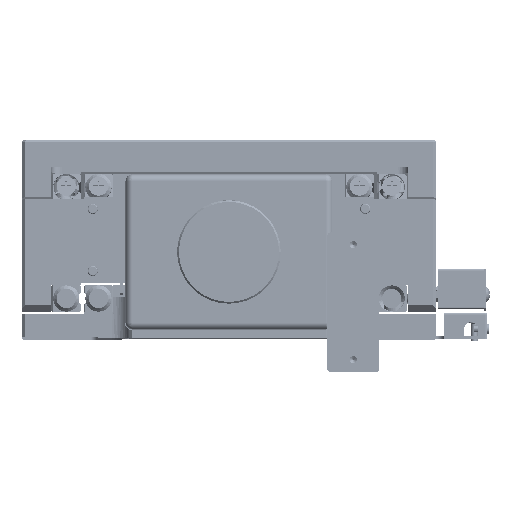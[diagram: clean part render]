
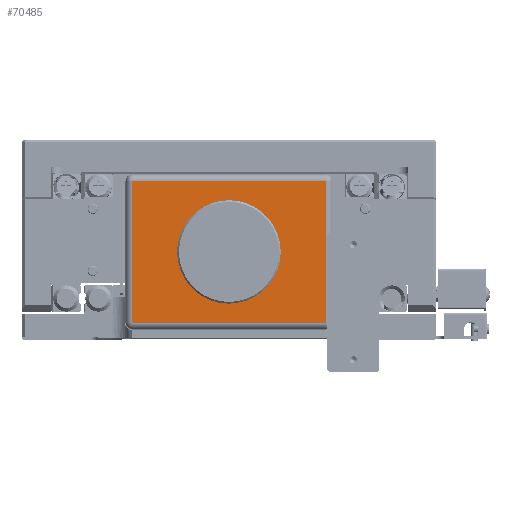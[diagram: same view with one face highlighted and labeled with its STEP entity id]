
A CAD part, left-side view. The second image highlights one B-rep face of the part: STEP entity #70485.
In plain terms, the highlighted planar face has unit normal (-1, 0, 0).
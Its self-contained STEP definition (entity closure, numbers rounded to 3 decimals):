
#1697=PLANE('',#75549);
#4309=FACE_BOUND('',#10645,.T.);
#6222=FACE_OUTER_BOUND('',#10644,.T.);
#10644=EDGE_LOOP('',(#52857,#52858,#52859,#52860));
#10645=EDGE_LOOP('',(#52861));
#15098=CIRCLE('',#75485,6.);
#19468=LINE('',#108893,#26034);
#19469=LINE('',#108895,#26035);
#19470=LINE('',#108897,#26036);
#19474=LINE('',#108906,#26040);
#26034=VECTOR('',#86427,10.);
#26035=VECTOR('',#86430,10.);
#26036=VECTOR('',#86433,10.);
#26040=VECTOR('',#86443,10.);
#32424=VERTEX_POINT('',#108787);
#32444=VERTEX_POINT('',#108862);
#32448=VERTEX_POINT('',#108870);
#32451=VERTEX_POINT('',#108878);
#32452=VERTEX_POINT('',#108882);
#40038=EDGE_CURVE('',#32424,#32424,#15098,.T.);
#40091=EDGE_CURVE('',#32452,#32451,#19468,.T.);
#40092=EDGE_CURVE('',#32448,#32452,#19469,.T.);
#40093=EDGE_CURVE('',#32451,#32444,#19470,.T.);
#40098=EDGE_CURVE('',#32444,#32448,#19474,.T.);
#52857=ORIENTED_EDGE('',*,*,#40091,.F.);
#52858=ORIENTED_EDGE('',*,*,#40092,.F.);
#52859=ORIENTED_EDGE('',*,*,#40098,.F.);
#52860=ORIENTED_EDGE('',*,*,#40093,.F.);
#52861=ORIENTED_EDGE('',*,*,#40038,.T.);
#70485=ADVANCED_FACE('',(#6222,#4309),#1697,.T.);
#75485=AXIS2_PLACEMENT_3D('',#108788,#86299,#86300);
#75549=AXIS2_PLACEMENT_3D('',#108926,#86464,#86465);
#86299=DIRECTION('center_axis',(1.,0.,0.));
#86300=DIRECTION('ref_axis',(0.,0.,
-1.));
#86427=DIRECTION('',(0.,0.,1.));
#86430=DIRECTION('',(0.,1.,0.));
#86433=DIRECTION('',(0.,-1.,0.));
#86443=DIRECTION('',(0.,0.,-1.));
#86464=DIRECTION('center_axis',(-1.,0.,0.));
#86465=DIRECTION('ref_axis',(0.,0.,
1.));
#108787=CARTESIAN_POINT('',(-189.5,0.,31.5));
#108788=CARTESIAN_POINT('Origin',(-189.5,0.,25.5));
#108862=CARTESIAN_POINT('',(-189.5,-28.,46.));
#108870=CARTESIAN_POINT('',(-189.5,-28.,5.));
#108878=CARTESIAN_POINT('',(-189.5,28.,46.));
#108882=CARTESIAN_POINT('',(-189.5,28.,5.));
#108893=CARTESIAN_POINT('',(-189.5,28.,25.5));
#108895=CARTESIAN_POINT('',(-189.5,-15.,5.));
#108897=CARTESIAN_POINT('',(-189.5,-15.,46.));
#108906=CARTESIAN_POINT('',(-189.5,-28.,25.5));
#108926=CARTESIAN_POINT('Origin',(-189.5,-30.,25.5));
